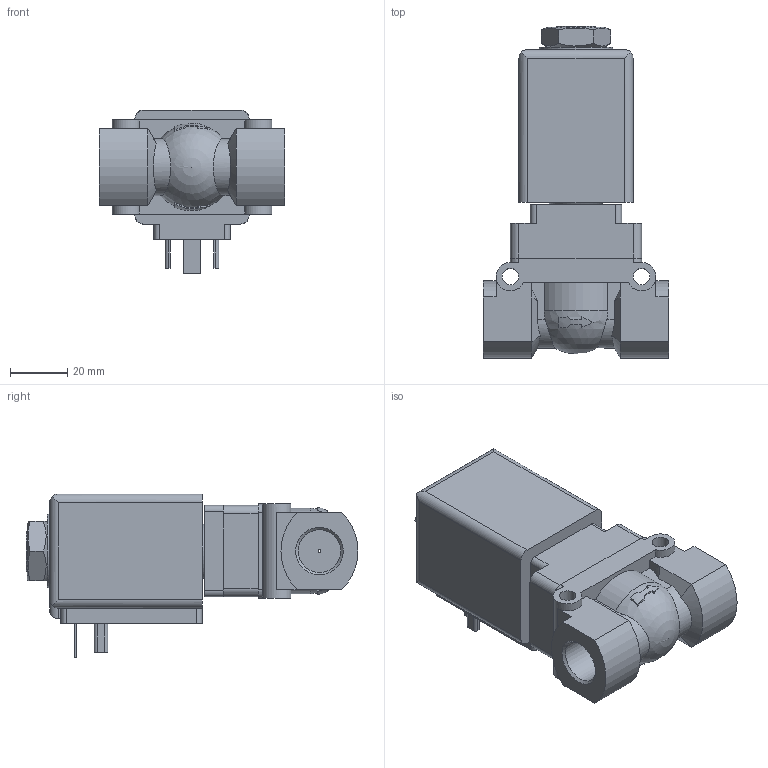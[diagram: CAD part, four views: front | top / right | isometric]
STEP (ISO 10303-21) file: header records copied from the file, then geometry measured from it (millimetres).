
FILE_DESCRIPTION(/* description */ ('STEP AP214'),/* implementation_level */ '2;1');
FILE_NAME(/* name */ '5404-339576-Servo-assisted_2_2_way_piston_valve',/* time_stamp */ '2024-02-27T17:36:38+01:00',/* author */ ('License CC BY-ND 4.0'),/* organization */ ('CADENAS'),/* preprocessor_version */ 'ST-DEVELOPER v19.3',/* originating_system */ 'PARTsolutions',/* authorisation */ ' ');
FILE_SCHEMA (('AUTOMOTIVE_DESIGN {1 0 10303 214 3 1 1}'));
Length unit declared in the file: millimetre
Products named in the file (4): 5404-339576-Servo-assisted 2/2 way piston valve; 5282g-8312MS000-2/2-Wege-Magnetventil_Gehaeuse; 5282d-12MSAZ4_ON-2/2-Wege-Magnetventil_Deckel; 6213sp 40 Plan 40
Assembly tree (3 placements, depth 2):
  5404-339576-Servo-assisted 2/2 way piston valve
    5282g-8312MS000-2/2-Wege-Magnetventil_Gehaeuse
    5282d-12MSAZ4_ON-2/2-Wege-Magnetventil_Deckel
    6213sp 40 Plan 40
Bounding box: 65 x 116.4 x 57.5 mm (x, y, z)
Volume: 167650 mm3; surface area: 31649.3 mm2
Topology: 3 solids, 3 shells, 177 faces, 467 edges, 307 vertices
Faces by surface type: plane 113, cylinder 50, cone 10, sphere 3, torus 1
Full cylindrical faces by diameter (mm): 1 x1, 2.45 x1, 5.8 x2, 14 x1, 14.95 x2, 25.9 x1
Entity records: 6027 total; most frequent: CARTESIAN_POINT 1049, DIRECTION 936, ORIENTED_EDGE 888, EDGE_CURVE 444, AXIS2_PLACEMENT_3D 339, VERTEX_POINT 298, LINE 258, VECTOR 258
